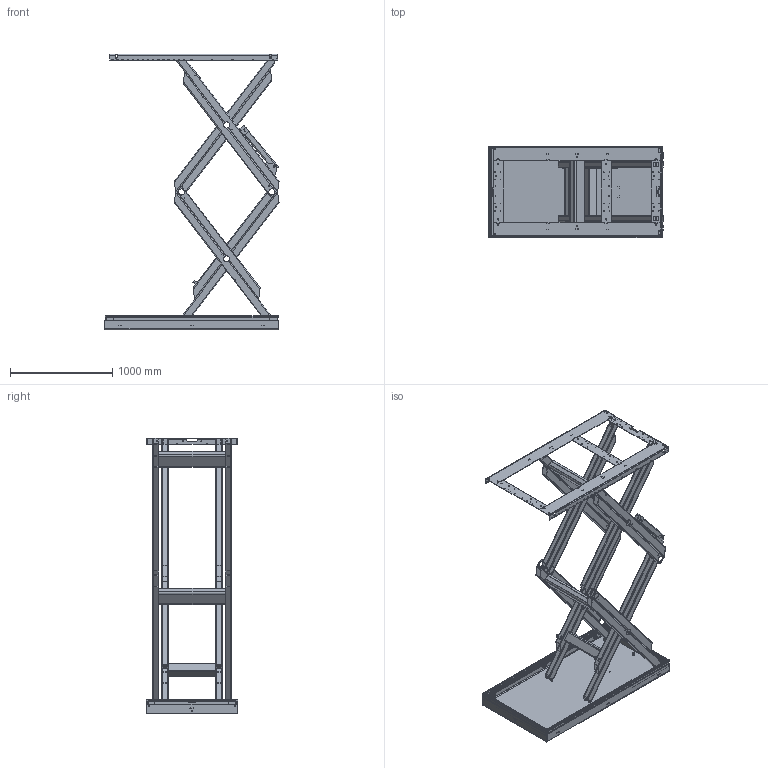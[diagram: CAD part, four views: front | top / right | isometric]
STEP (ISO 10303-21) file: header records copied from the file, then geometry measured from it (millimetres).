
FILE_DESCRIPTION(/* description */ ('Plate Base frame'),/* implementation_level */ '2;1');
FILE_NAME(/* name */ '\\EDMOFILE01\Users$\JOHSO\Desktop\STP\33510_Elevated.stp',/* time_stamp */ '2016-05-24T08:12:13+02:00',/* author */ ('JOHSO'),/* organization */ (''),/* preprocessor_version */ 'ST-DEVELOPER v15.6',/* originating_system */ 'Autodesk Inventor 2015',/* authorisation */ '');
FILE_SCHEMA (('AUTOMOTIVE_DESIGN { 1 0 10303 214 3 1 1 }'));
Products named in the file (43): 35871-1; 35871-2; 35871-3; 35871-4; 45259; 33519; Copy of ISO 4019 - 80x60x4 - 1525; Copy of ISO 4019 - 80x60x4 - 1635; 33516; 33512; Copy of ISO 4019 - 80x60x4 - 1495; Copy of ISO 4019 - 80x60x4 - 1635_1; 33515; Copy of ISO 4019 - 160x80x8 - 650; 35435-3; 35684-2; 33511; Copy of ISO 4019 - 80x60x4 - 1635_2; Copy of ISO 4019 - 80x60x4 - 1335; 33517; 33513; Copy of ISO 4019 - 80x60x4 - 1635_3; Copy of ISO 4019 - 80x60x4 - 1335_1; 33518; Copy of ISO 4019 - 100x100x5 - 468; 82091-36; 33514; 33142-1; 43239; 45387; 85955; 33181; 42289-853; 42289-1673; 42330; 42331; 33990; 43476; 43481; ISO 4032 - M8ISO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
Assembly tree (87 placements, depth 4):
  33510_TEMP
    33519
      35871-1
      35871-2  x2
      35871-3
      35871-4
      45259  x2
    33512
      33516  x2
        Copy of ISO 4019 - 80x60x4 - 1525
        Copy of ISO 4019 - 80x60x4 - 1635
    33511
      33515  x2
        Copy of ISO 4019 - 80x60x4 - 1495
        Copy of ISO 4019 - 80x60x4 - 1635_1
      Copy of ISO 4019 - 160x80x8 - 650
      35435-3  x4
      35684-2  x2
    33513
      33517  x2
        Copy of ISO 4019 - 80x60x4 - 1635_2
        Copy of ISO 4019 - 80x60x4 - 1335
      Copy of ISO 4019 - 160x80x8 - 650
    33514
      33518  x2
        Copy of ISO 4019 - 80x60x4 - 1635_3
        Copy of ISO 4019 - 80x60x4 - 1335_1
      Copy of ISO 4019 - 100x100x5 - 468
      82091-36  x2
    33181
      33142-1
      43239  x2
      45259  x2
      45387  x8
      85955
    31766-1700x900
      42289-853  x2
      42289-1673  x2
      42330  x6
      42331  x4
      33990  x2
      43476  x4
      43481  x6
      ISO 4032 - M8ISO  x4
    35684-1  x2
Bounding box: 1705.93 x 900 x 2700 mm (x, y, z)
Volume: 47406866.9 mm3; surface area: 21177491.3 mm2
Topology: 80 solids, 88 shells, 5410 faces, 15088 edges, 9868 vertices
Faces by surface type: plane 2698, cylinder 2002, bspline 500, cone 90, torus 72, sphere 48
Full cylindrical faces by diameter (mm): 0.474 x2, 1 x4, 3 x4, 3.141 x4, 3.2 x4, 4 x16, 4.3 x4, 4.9 x2, 5 x4, 5.2 x6, 5.3 x2, 5.55 x4, 6.647 x4, 7.3 x4, 7.4 x54, 7.6 x4, 8 x8, 8.5 x6, 10 x10, 10.3 x4, 10.481 x4, 10.5 x6, 11 x2, 12.5 x2, 13 x6, 13.835 x5, 14.2 x16, 15 x4, 16 x8, 18.8 x2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
Entity records: 102966 total; most frequent: CARTESIAN_POINT 25918, ORIENTED_EDGE 15802, DIRECTION 15075, EDGE_CURVE 7895, VERTEX_POINT 5288, AXIS2_PLACEMENT_3D 5133, LINE 4809, VECTOR 4809
